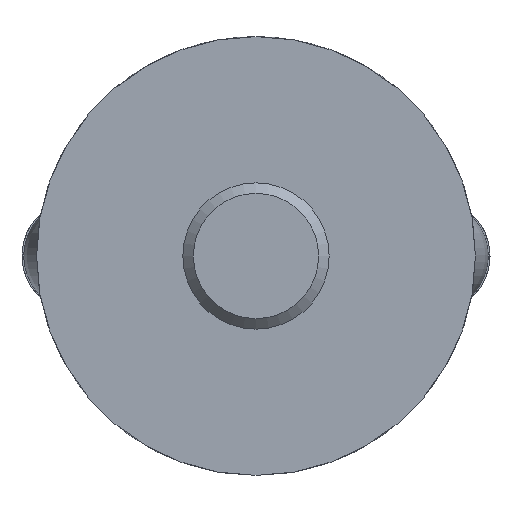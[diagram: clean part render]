
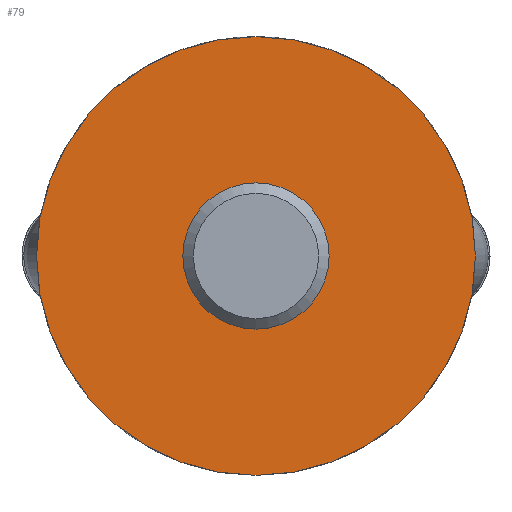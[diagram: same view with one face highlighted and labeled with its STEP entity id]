
A CAD part, front view. The second image highlights one B-rep face of the part: STEP entity #79.
In plain terms, the highlighted planar face has unit normal (0, -1, 0).
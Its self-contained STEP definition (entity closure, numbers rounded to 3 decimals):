
#79 = ADVANCED_FACE( '', ( #115, #116 ), #117, .F. );
#115 = FACE_BOUND( '', #186, .T. );
#116 = FACE_OUTER_BOUND( '', #187, .T. );
#117 = PLANE( '', #188 );
#186 = EDGE_LOOP( '', ( #276 ) );
#187 = EDGE_LOOP( '', ( #277 ) );
#188 = AXIS2_PLACEMENT_3D( '', #278, #279, #280 );
#276 = ORIENTED_EDGE( '', *, *, #464, .T. );
#277 = ORIENTED_EDGE( '', *, *, #465, .T. );
#278 = CARTESIAN_POINT( '', ( 45., 0., 0. ) );
#279 = DIRECTION( '', ( 0., 1., 0. ) );
#280 = DIRECTION( '', ( 0., 0., 1. ) );
#464 = EDGE_CURVE( '', #539, #539, #540, .T. );
#465 = EDGE_CURVE( '', #541, #541, #542, .T. );
#539 = VERTEX_POINT( '', #825 );
#540 = CIRCLE( '', #826, 15. );
#541 = VERTEX_POINT( '', #827 );
#542 = CIRCLE( '', #828, 45. );
#825 = CARTESIAN_POINT( '', ( 0., 0., 15. ) );
#826 = AXIS2_PLACEMENT_3D( '', #1147, #1148, #1149 );
#827 = CARTESIAN_POINT( '', ( 0., 0., -45. ) );
#828 = AXIS2_PLACEMENT_3D( '', #1150, #1151, #1152 );
#1147 = CARTESIAN_POINT( '', ( 0., 0., 0. ) );
#1148 = DIRECTION( '', ( 0., 1., 0. ) );
#1149 = DIRECTION( '', ( 0., 0., 1. ) );
#1150 = CARTESIAN_POINT( '', ( 0., 0., 0. ) );
#1151 = DIRECTION( '', ( 0., -1., 0. ) );
#1152 = DIRECTION( '', ( 0., 0., -1. ) );
